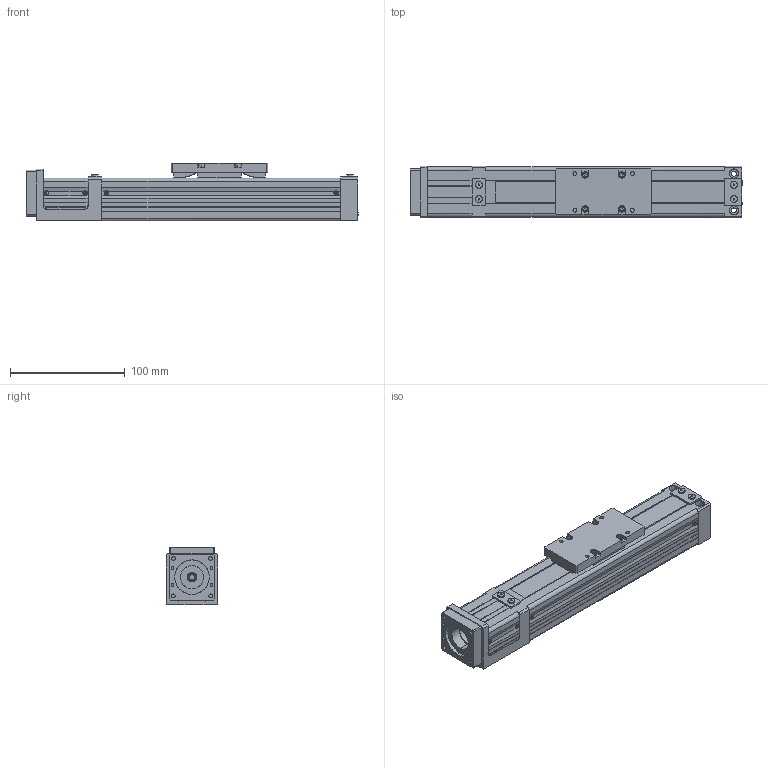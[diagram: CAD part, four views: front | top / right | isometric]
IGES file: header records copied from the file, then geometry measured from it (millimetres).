
Global section: file name: No Iges File Name specified; native system: AutoDesk Inventor R10; preprocessor: AutoDesk Inventor Iges Exporter R10; author: No Author specified; organization: No Organization specified; date: 20110330.140319; units: millimetre
Bounding box: 289 x 45 x 50 mm (x, y, z)
Surface area: 123143.8 mm2 (no closed solid volume)
Topology: 0 solids, 0 shells, 780 faces, 5138 edges, 5118 vertices
Faces by surface type: bspline 780
